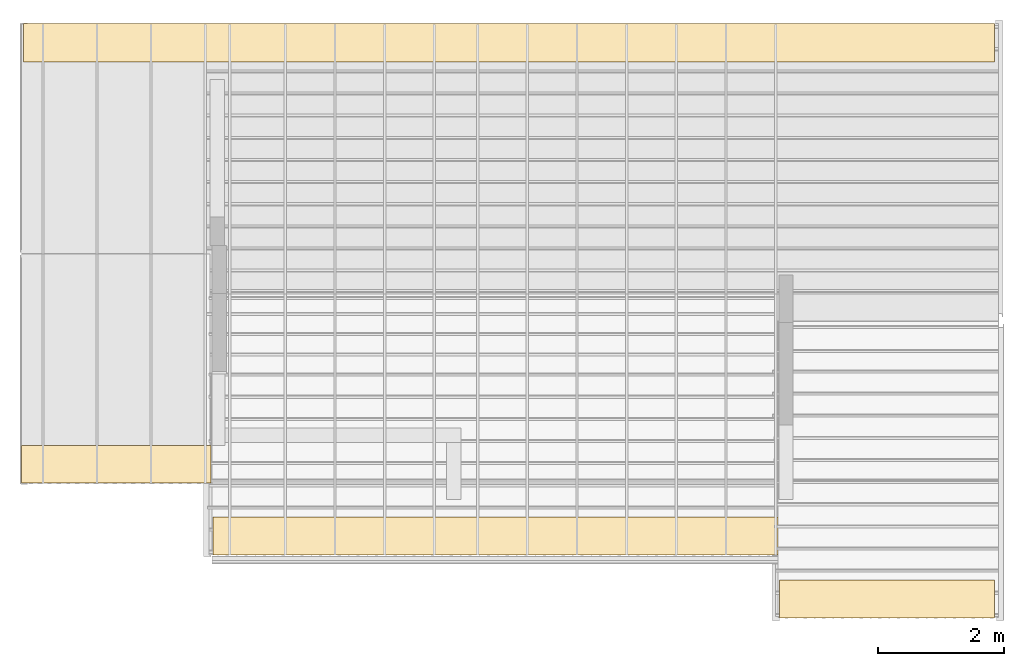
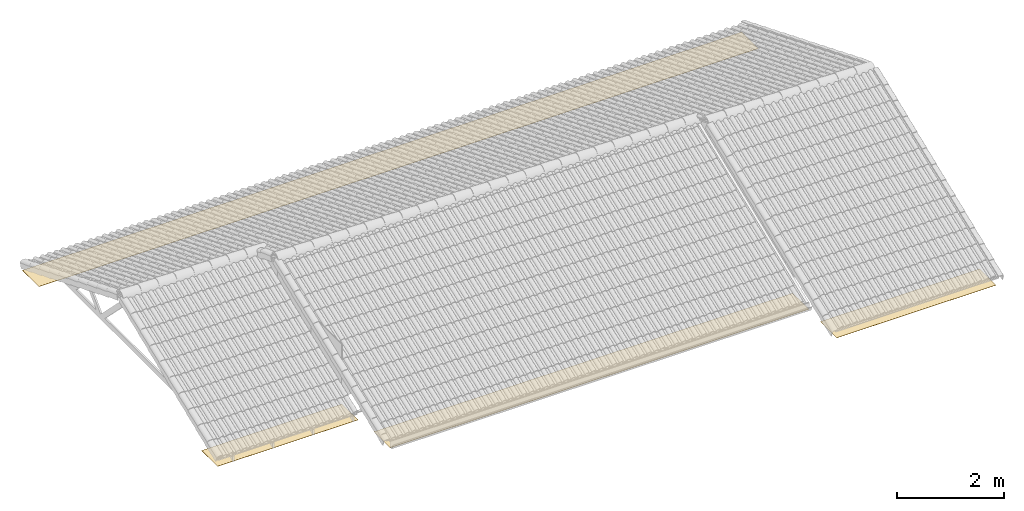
# One storey, part 2 of 5: 4 coverings.
"""IFC2X3 building model written with IfcOpenShell, lengths in millimetres."""

from ifc_helpers import new_model, entity, si_unit, converted_unit, derived_unit, direction, frame, frame_2d, origin, origin_2d_with_axis, place, context, subcontext, project, spatial, rectangle, extrude, material, layer, layer_set, layer_usage, element, save


model = new_model("IFC2X3")

# Units and contexts
model_context = context("Model", 3, precision=0.01, world=origin(), true_north=direction((6.12303176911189e-17, 1.0)))
body_context = subcontext(model_context, "Body", "Model", "MODEL_VIEW")
ifc_project = project(units=[si_unit("LENGTHUNIT", "METRE", prefix="MILLI"), si_unit("AREAUNIT", "SQUARE_METRE"), si_unit("VOLUMEUNIT", "CUBIC_METRE"), converted_unit("PLANEANGLEUNIT", "DEGREE", entity("IfcRatioMeasure", 0.0174532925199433), si_unit("PLANEANGLEUNIT", "RADIAN"), dimensions=[0, 0, 0, 0, 0, 0, 0]), si_unit("MASSUNIT", "GRAM", prefix="KILO"), derived_unit("MASSDENSITYUNIT", [(si_unit("MASSUNIT", "GRAM", prefix="KILO"), 1), (si_unit("LENGTHUNIT", "METRE"), -3)]), si_unit("TIMEUNIT", "SECOND"), si_unit("FREQUENCYUNIT", "HERTZ"), si_unit("THERMODYNAMICTEMPERATUREUNIT", "DEGREE_CELSIUS"), derived_unit("THERMALTRANSMITTANCEUNIT", [(si_unit("MASSUNIT", "GRAM", prefix="KILO"), 1), (si_unit("THERMODYNAMICTEMPERATUREUNIT", "KELVIN"), -1), (si_unit("TIMEUNIT", "SECOND"), -3)]), derived_unit("VOLUMETRICFLOWRATEUNIT", [(si_unit("LENGTHUNIT", "METRE"), 3), (si_unit("TIMEUNIT", "SECOND"), -1)]), si_unit("ELECTRICCURRENTUNIT", "AMPERE"), si_unit("ELECTRICVOLTAGEUNIT", "VOLT"), si_unit("POWERUNIT", "WATT"), si_unit("FORCEUNIT", "NEWTON", prefix="KILO"), si_unit("ILLUMINANCEUNIT", "LUX"), si_unit("LUMINOUSFLUXUNIT", "LUMEN"), si_unit("LUMINOUSINTENSITYUNIT", "CANDELA"), derived_unit("USERDEFINED", [(si_unit("MASSUNIT", "GRAM", prefix="KILO"), -1), (si_unit("LENGTHUNIT", "METRE"), -2), (si_unit("TIMEUNIT", "SECOND"), 3), (si_unit("LUMINOUSFLUXUNIT", "LUMEN"), 1)]), derived_unit("LINEARVELOCITYUNIT", [(si_unit("LENGTHUNIT", "METRE"), 1), (si_unit("TIMEUNIT", "SECOND"), -1)]), si_unit("PRESSUREUNIT", "PASCAL"), derived_unit("USERDEFINED", [(si_unit("LENGTHUNIT", "METRE"), -2), (si_unit("MASSUNIT", "GRAM", prefix="KILO"), 1), (si_unit("TIMEUNIT", "SECOND"), -2)])], contexts=[model_context])

# Site, building, storey
site_placement = place(None, origin())
site = spatial("IfcSite", under=ifc_project, at=site_placement, Name="Surface", CompositionType="ELEMENT")
building_placement = place(site_placement, origin())
building = spatial("IfcBuilding", under=site, at=building_placement, CompositionType="ELEMENT")
storey_placement = place(building_placement, frame((0.0, 0.0, 2765.0)))
storey = spatial("IfcBuildingStorey", under=building, at=storey_placement, Name="U.S.W.P", CompositionType="ELEMENT", Elevation=2765.0)

# Coverings
ifc_material = material(Name="Default Roof")
ifc_layer_1 = layer(ifc_material, 4.0)
ifc_layer_set_1 = layer_set([ifc_layer_1], Name="Roof Soffit:Gypsum - 4mm")
ifc_layer_usage_1 = layer_usage(ifc_layer_set_1, "AXIS3", "POSITIVE", 0.0)
covering_1_placement = place(storey_placement, origin())
element("IfcCovering", 1, at=covering_1_placement, inside=storey, material=ifc_layer_usage_1, Name="Roof Soffit:Gypsum - 4mm", ObjectType="Roof Soffit:Gypsum - 4mm", PredefinedType="CEILING", context=body_context, shape_type="SweptSolid", body=[
    extrude(rectangle(XDim=8995.00000000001, YDim=600.0, at=origin_2d_with_axis()), frame((-4544.37517007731, 3280.84008915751, -120.0), z_axis=(0.0, 0.0, 1.0), x_axis=(-1.0, 0.0, 0.0)), (0.0, 0.0, 1.0), 4.00000000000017),
])
ifc_layer_2 = layer(ifc_material, 4.0)
ifc_layer_set_2 = layer_set([ifc_layer_2], Name="Roof Soffit:Generic - 300mm")
ifc_layer_usage_2 = layer_usage(ifc_layer_set_2, "AXIS3", "POSITIVE", 0.0)
covering_2_placement = place(storey_placement, origin())
element("IfcCovering", 2, at=covering_2_placement, inside=storey, material=ifc_layer_usage_2, Name="Roof Soffit:Generic - 300mm", ObjectType="Roof Soffit:Generic - 300mm", PredefinedType="CEILING", context=body_context, shape_type="SweptSolid", body=[
    extrude(rectangle(XDim=595.000000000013, YDim=3015.07667354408, at=frame_2d((2.55795384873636e-13, -5.6843418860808e-13), x_axis=(1.0, 0.0))), frame((-10579.3368333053, 4423.34008915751, -170.0), z_axis=(0.0, 0.0, 1.0), x_axis=(0.0, 1.0, 0.0)), (0.0, 0.0, 1.0), 4.00000000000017),
])
ifc_layer_usage_3 = layer_usage(ifc_layer_set_1, "AXIS3", "POSITIVE", 0.0)
covering_3_placement = place(storey_placement, origin())
element("IfcCovering", 3, at=covering_3_placement, inside=storey, material=ifc_layer_usage_3, Name="Roof Soffit:Gypsum - 4mm", ObjectType="Roof Soffit:Gypsum - 4mm", PredefinedType="CEILING", context=body_context, shape_type="SweptSolid", body=[
    extrude(rectangle(XDim=3421.52274630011, YDim=607.173296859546, at=origin_2d_with_axis()), frame((1687.04182529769, 2281.05659682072, -170.0)), (0.0, 0.0, 1.0), 4.00000000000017),
])
ifc_layer_usage_4 = layer_usage(ifc_layer_set_2, "AXIS3", "POSITIVE", 0.0)
covering_4_placement = place(storey_placement, origin())
element("IfcCovering", 4, at=covering_4_placement, inside=storey, material=ifc_layer_usage_4, Name="Roof Soffit:Generic - 300mm", ObjectType="Roof Soffit:Generic - 300mm", PredefinedType="CEILING", context=body_context, shape_type="SweptSolid", body=[
    extrude(rectangle(XDim=15456.6063459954, YDim=614.170346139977, at=frame_2d((0.0, -1.10844666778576e-12), x_axis=(1.0, 0.0))), frame((-4330.49997454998, 11132.9252622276, -160.0), z_axis=(0.0, 0.0, 1.0), x_axis=(-1.0, 0.0, 0.0)), (0.0, 0.0, 1.0), 4.00000000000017),
])

save(model, "model.ifc")
